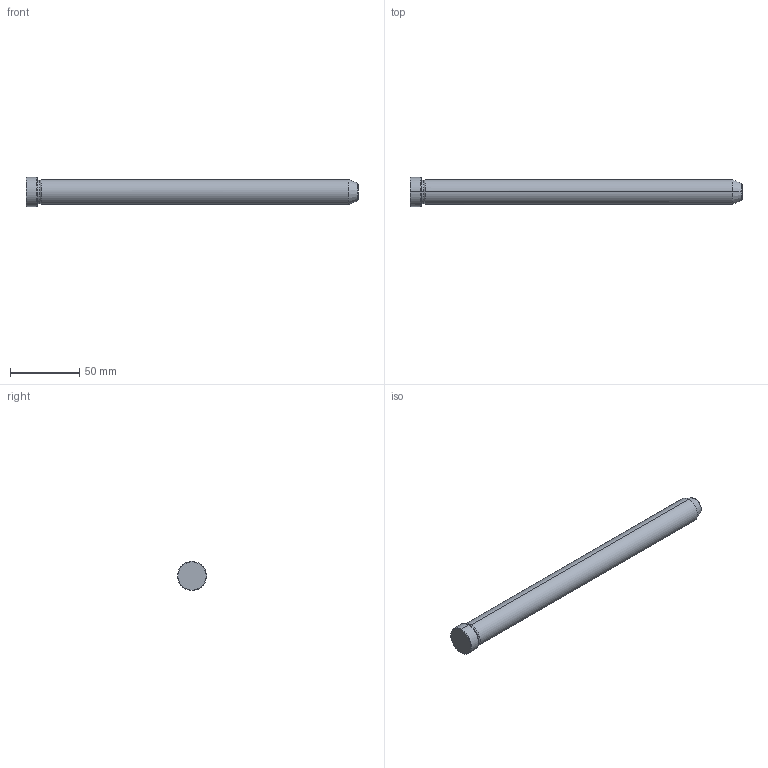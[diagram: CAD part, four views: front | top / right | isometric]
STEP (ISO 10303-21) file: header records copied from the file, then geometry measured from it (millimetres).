
FILE_DESCRIPTION(('CATIA V5 STEP Exchange'),'2;1');
FILE_NAME('C:\Users\Utente\Desktop\IO LAVORO\3D X SITO CF\X SITO\PLASTICA\549\549-18X240.stp','2021-12-11T09:46:32+00:00',('none'),('none'),'CATIA Version 5 Release 20 GA (IN-10)','CATIA V5 STEP AP203','none');
FILE_SCHEMA(('CONFIG_CONTROL_DESIGN'));
Length unit declared in the file: millimetre
Products named in the file (1): 549-18X240
Bounding box: 240 x 21 x 21 mm (x, y, z)
Volume: 61230.6 mm3; surface area: 14166.3 mm2
Topology: 1 solids, 1 shells, 19 faces, 56 edges, 40 vertices
Faces by surface type: cone 8, cylinder 6, plane 3, torus 2
Entity records: 736 total; most frequent: CARTESIAN_POINT 192, ORIENTED_EDGE 112, DIRECTION 86, EDGE_CURVE 56, AXIS2_PLACEMENT_3D 54, VERTEX_POINT 40, CIRCLE 34, EDGE_LOOP 20
